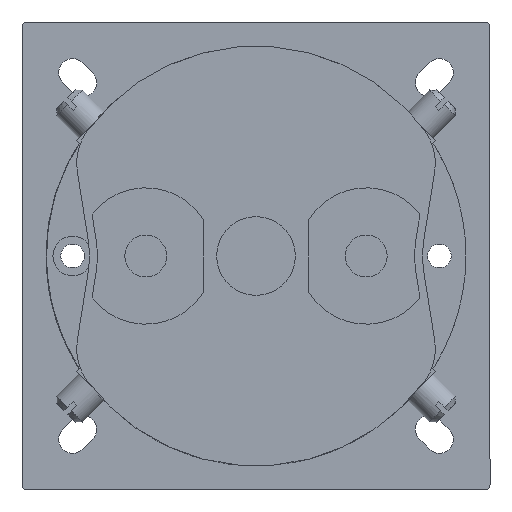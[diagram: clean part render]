
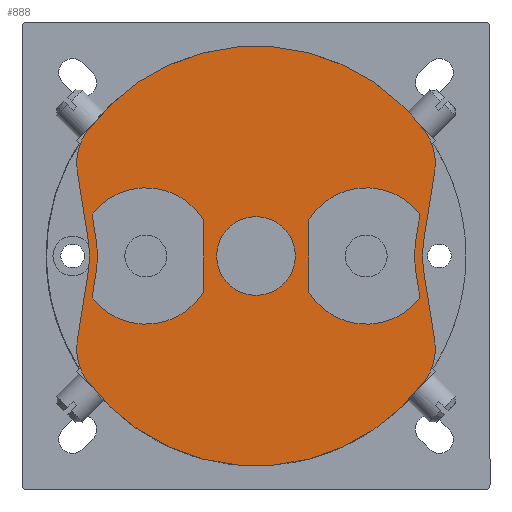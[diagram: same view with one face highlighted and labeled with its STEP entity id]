
A CAD part, front view. The second image highlights one B-rep face of the part: STEP entity #888.
In plain terms, the highlighted planar face has unit normal (0, -1, 0).
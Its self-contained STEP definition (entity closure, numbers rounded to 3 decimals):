
#487=FACE_BOUND('',#2944,.T.);
#488=FACE_BOUND('',#2945,.T.);
#489=FACE_BOUND('',#2946,.T.);
#490=FACE_BOUND('',#2947,.T.);
#888=ADVANCED_FACE('',(#487,#488,#489,#490),#1627,.T.);
#1627=PLANE('',#14373);
#2944=EDGE_LOOP('',(#4843,#4844,#4845,#4846,#4847,#4848));
#2945=EDGE_LOOP('',(#4849,#4850,#4851,#4852,#4853,#4854));
#2946=EDGE_LOOP('',(#4855,#4856,#4857,#4858,#4859,#4860,#4861,#4862,#4863,
#4864,#4865,#4866));
#2947=EDGE_LOOP('',(#4867));
#3836=CIRCLE('',#14199,40.);
#3854=CIRCLE('',#14217,40.);
#3910=CIRCLE('',#14323,7.5);
#3911=CIRCLE('',#14325,13.);
#3913=CIRCLE('',#14329,21.5);
#3915=CIRCLE('',#14333,13.);
#3917=CIRCLE('',#14339,21.5);
#3919=CIRCLE('',#14343,13.);
#3921=CIRCLE('',#14347,13.);
#3924=CIRCLE('',#14352,10.);
#3926=CIRCLE('',#14356,20.);
#3928=CIRCLE('',#14360,10.);
#3930=CIRCLE('',#14363,10.);
#3932=CIRCLE('',#14367,20.);
#3934=CIRCLE('',#14371,10.);
#4843=ORIENTED_EDGE('',*,*,#9746,.T.);
#4844=ORIENTED_EDGE('',*,*,#9762,.T.);
#4845=ORIENTED_EDGE('',*,*,#9759,.T.);
#4846=ORIENTED_EDGE('',*,*,#9756,.T.);
#4847=ORIENTED_EDGE('',*,*,#9753,.T.);
#4848=ORIENTED_EDGE('',*,*,#9750,.T.);
#4849=ORIENTED_EDGE('',*,*,#9744,.F.);
#4850=ORIENTED_EDGE('',*,*,#9728,.F.);
#4851=ORIENTED_EDGE('',*,*,#9732,.F.);
#4852=ORIENTED_EDGE('',*,*,#9735,.F.);
#4853=ORIENTED_EDGE('',*,*,#9738,.F.);
#4854=ORIENTED_EDGE('',*,*,#9741,.F.);
#4855=ORIENTED_EDGE('',*,*,#9791,.T.);
#4856=ORIENTED_EDGE('',*,*,#9789,.T.);
#4857=ORIENTED_EDGE('',*,*,#9786,.T.);
#4858=ORIENTED_EDGE('',*,*,#9783,.T.);
#4859=ORIENTED_EDGE('',*,*,#9780,.T.);
#4860=ORIENTED_EDGE('',*,*,#9597,.T.);
#4861=ORIENTED_EDGE('',*,*,#9777,.T.);
#4862=ORIENTED_EDGE('',*,*,#9775,.T.);
#4863=ORIENTED_EDGE('',*,*,#9772,.T.);
#4864=ORIENTED_EDGE('',*,*,#9769,.T.);
#4865=ORIENTED_EDGE('',*,*,#9766,.T.);
#4866=ORIENTED_EDGE('',*,*,#9563,.T.);
#4867=ORIENTED_EDGE('',*,*,#9727,.F.);
#8210=VERTEX_POINT('',#19640);
#8211=VERTEX_POINT('',#19642);
#8242=VERTEX_POINT('',#19706);
#8243=VERTEX_POINT('',#19708);
#8332=VERTEX_POINT('',#19977);
#8333=VERTEX_POINT('',#19980);
#8334=VERTEX_POINT('',#19981);
#8337=VERTEX_POINT('',#19989);
#8339=VERTEX_POINT('',#19995);
#8341=VERTEX_POINT('',#20001);
#8343=VERTEX_POINT('',#20007);
#8345=VERTEX_POINT('',#20017);
#8346=VERTEX_POINT('',#20018);
#8349=VERTEX_POINT('',#20026);
#8351=VERTEX_POINT('',#20032);
#8353=VERTEX_POINT('',#20038);
#8355=VERTEX_POINT('',#20044);
#8357=VERTEX_POINT('',#20054);
#8359=VERTEX_POINT('',#20060);
#8361=VERTEX_POINT('',#20066);
#8363=VERTEX_POINT('',#20072);
#8365=VERTEX_POINT('',#20081);
#8367=VERTEX_POINT('',#20087);
#8369=VERTEX_POINT('',#20093);
#8371=VERTEX_POINT('',#20099);
#9563=EDGE_CURVE('',#8211,#8210,#3836,.T.);
#9597=EDGE_CURVE('',#8243,#8242,#3854,.T.);
#9727=EDGE_CURVE('',#8332,#8332,#3910,.T.);
#9728=EDGE_CURVE('',#8333,#8334,#3911,.T.);
#9732=EDGE_CURVE('',#8337,#8333,#11512,.T.);
#9735=EDGE_CURVE('',#8339,#8337,#3913,.T.);
#9738=EDGE_CURVE('',#8341,#8339,#11516,.T.);
#9741=EDGE_CURVE('',#8343,#8341,#3915,.T.);
#9744=EDGE_CURVE('',#8334,#8343,#11520,.T.);
#9746=EDGE_CURVE('',#8345,#8346,#11522,.T.);
#9750=EDGE_CURVE('',#8349,#8345,#3917,.T.);
#9753=EDGE_CURVE('',#8351,#8349,#11527,.T.);
#9756=EDGE_CURVE('',#8353,#8351,#3919,.T.);
#9759=EDGE_CURVE('',#8355,#8353,#11531,.T.);
#9762=EDGE_CURVE('',#8346,#8355,#3921,.T.);
#9766=EDGE_CURVE('',#8357,#8211,#3924,.T.);
#9769=EDGE_CURVE('',#8359,#8357,#11537,.T.);
#9772=EDGE_CURVE('',#8361,#8359,#3926,.T.);
#9775=EDGE_CURVE('',#8363,#8361,#11541,.T.);
#9777=EDGE_CURVE('',#8242,#8363,#3928,.T.);
#9780=EDGE_CURVE('',#8365,#8243,#3930,.T.);
#9783=EDGE_CURVE('',#8367,#8365,#11545,.T.);
#9786=EDGE_CURVE('',#8369,#8367,#3932,.T.);
#9789=EDGE_CURVE('',#8371,#8369,#11549,.T.);
#9791=EDGE_CURVE('',#8210,#8371,#3934,.T.);
#11512=LINE('',#19988,#12879);
#11516=LINE('',#20000,#12883);
#11520=LINE('',#20012,#12887);
#11522=LINE('',#20016,#12889);
#11527=LINE('',#20031,#12894);
#11531=LINE('',#20043,#12898);
#11537=LINE('',#20063,#12904);
#11541=LINE('',#20075,#12908);
#11545=LINE('',#20090,#12912);
#11549=LINE('',#20102,#12916);
#12879=VECTOR('',#15997,1.);
#12883=VECTOR('',#16009,1.);
#12887=VECTOR('',#16021,1.);
#12889=VECTOR('',#16027,1.);
#12894=VECTOR('',#16040,1.);
#12898=VECTOR('',#16052,1.);
#12904=VECTOR('',#16074,1.);
#12908=VECTOR('',#16086,1.);
#12912=VECTOR('',#16104,1.);
#12916=VECTOR('',#16116,1.);
#14199=AXIS2_PLACEMENT_3D('',#19641,#15647,#15648);
#14217=AXIS2_PLACEMENT_3D('',#19707,#15699,#15700);
#14323=AXIS2_PLACEMENT_3D('',#19976,#15985,#15986);
#14325=AXIS2_PLACEMENT_3D('',#19979,#15989,#15990);
#14329=AXIS2_PLACEMENT_3D('',#19994,#16002,#16003);
#14333=AXIS2_PLACEMENT_3D('',#20006,#16014,#16015);
#14339=AXIS2_PLACEMENT_3D('',#20025,#16033,#16034);
#14343=AXIS2_PLACEMENT_3D('',#20037,#16045,#16046);
#14347=AXIS2_PLACEMENT_3D('',#20049,#16057,#16058);
#14352=AXIS2_PLACEMENT_3D('',#20057,#16068,#16069);
#14356=AXIS2_PLACEMENT_3D('',#20069,#16080,#16081);
#14360=AXIS2_PLACEMENT_3D('',#20078,#16091,#16092);
#14363=AXIS2_PLACEMENT_3D('',#20084,#16098,#16099);
#14367=AXIS2_PLACEMENT_3D('',#20096,#16110,#16111);
#14371=AXIS2_PLACEMENT_3D('',#20105,#16121,#16122);
#14373=AXIS2_PLACEMENT_3D('',#20107,#16125,#16126);
#15647=DIRECTION('',(0.,-1.,0.));
#15648=DIRECTION('',(0.,0.,-1.));
#15699=DIRECTION('',(0.,-1.,0.));
#15700=DIRECTION('',(0.,0.,-1.));
#15985=DIRECTION('',(0.,-1.,0.));
#15986=DIRECTION('',(0.,0.,-1.));
#15989=DIRECTION('',(0.,-1.,0.));
#15990=DIRECTION('',(1.,0.,0.));
#15997=DIRECTION('',(0.156,0.,0.988));
#16002=DIRECTION('',(0.,1.,0.));
#16003=DIRECTION('',(1.,0.,0.));
#16009=DIRECTION('',(-0.156,0.,0.988));
#16014=DIRECTION('',(0.,-1.,0.));
#16015=DIRECTION('',(1.,0.,0.));
#16021=DIRECTION('',(0.,0.,-1.));
#16027=DIRECTION('',(-0.156,0.,0.988));
#16033=DIRECTION('',(0.,-1.,0.));
#16034=DIRECTION('',(1.,0.,0.));
#16040=DIRECTION('',(0.156,0.,0.988));
#16045=DIRECTION('',(0.,1.,0.));
#16046=DIRECTION('',(1.,0.,0.));
#16052=DIRECTION('',(0.,0.,-1.));
#16057=DIRECTION('',(0.,1.,0.));
#16058=DIRECTION('',(1.,0.,0.));
#16068=DIRECTION('',(0.,-1.,0.));
#16069=DIRECTION('',(0.,0.,-1.));
#16074=DIRECTION('',(0.156,0.,0.988));
#16080=DIRECTION('',(0.,1.,0.));
#16081=DIRECTION('',(0.,0.,-1.));
#16086=DIRECTION('',(-0.156,0.,0.988));
#16091=DIRECTION('',(0.,-1.,0.));
#16092=DIRECTION('',(0.,0.,-1.));
#16098=DIRECTION('',(0.,-1.,0.));
#16099=DIRECTION('',(0.,0.,-1.));
#16104=DIRECTION('',(-0.156,0.,-0.988));
#16110=DIRECTION('',(0.,1.,0.));
#16111=DIRECTION('',(0.,0.,-1.));
#16116=DIRECTION('',(0.156,0.,-0.988));
#16121=DIRECTION('',(0.,-1.,0.));
#16122=DIRECTION('',(0.,0.,-1.));
#16125=DIRECTION('',(0.,-1.,0.));
#16126=DIRECTION('',(0.,0.,-1.));
#19640=CARTESIAN_POINT('',(-32.249,-116.5,23.665));
#19641=CARTESIAN_POINT('',(0.,-116.5,0.));
#19642=CARTESIAN_POINT('',(32.249,-116.5,23.665));
#19706=CARTESIAN_POINT('',(32.249,-116.5,-23.665));
#19707=CARTESIAN_POINT('',(0.,-116.5,0.));
#19708=CARTESIAN_POINT('',(-32.249,-116.5,-23.665));
#19976=CARTESIAN_POINT('',(0.,-116.5,0.));
#19977=CARTESIAN_POINT('',(0.,-116.5,-7.5));
#19979=CARTESIAN_POINT('',(21.031,-116.5,0.));
#19980=CARTESIAN_POINT('',(31.253,-116.5,8.032));
#19981=CARTESIAN_POINT('',(10.031,-116.5,6.928));
#19988=CARTESIAN_POINT('',(30.514,-116.5,3.363));
#19989=CARTESIAN_POINT('',(30.514,-116.5,3.363));
#19994=CARTESIAN_POINT('',(51.749,-116.5,0.));
#19995=CARTESIAN_POINT('',(30.514,-116.5,-3.363));
#20000=CARTESIAN_POINT('',(31.253,-116.5,-8.032));
#20001=CARTESIAN_POINT('',(31.253,-116.5,-8.032));
#20006=CARTESIAN_POINT('',(21.031,-116.5,0.));
#20007=CARTESIAN_POINT('',(10.031,-116.5,-6.928));
#20012=CARTESIAN_POINT('',(10.031,-116.5,6.928));
#20016=CARTESIAN_POINT('',(-30.514,-116.5,3.363));
#20017=CARTESIAN_POINT('',(-30.514,-116.5,3.363));
#20018=CARTESIAN_POINT('',(-31.248,-116.5,7.998));
#20025=CARTESIAN_POINT('',(-51.749,-116.5,0.));
#20026=CARTESIAN_POINT('',(-30.514,-116.5,-3.363));
#20031=CARTESIAN_POINT('',(-31.248,-116.5,-7.998));
#20032=CARTESIAN_POINT('',(-31.248,-116.5,-7.998));
#20037=CARTESIAN_POINT('',(-21.,-116.5,0.));
#20038=CARTESIAN_POINT('',(-10.,-116.5,-6.928));
#20043=CARTESIAN_POINT('',(-10.,-116.5,6.928));
#20044=CARTESIAN_POINT('',(-10.,-116.5,6.928));
#20049=CARTESIAN_POINT('',(-21.,-116.5,0.));
#20054=CARTESIAN_POINT('',(34.063,-116.5,16.184));
#20057=CARTESIAN_POINT('',(24.186,-116.5,17.749));
#20060=CARTESIAN_POINT('',(31.996,-116.5,3.129));
#20063=CARTESIAN_POINT('',(31.996,-116.5,3.129));
#20066=CARTESIAN_POINT('',(31.996,-116.5,-3.129));
#20069=CARTESIAN_POINT('',(51.749,-116.5,0.));
#20072=CARTESIAN_POINT('',(34.063,-116.5,-16.184));
#20075=CARTESIAN_POINT('',(34.063,-116.5,-16.184));
#20078=CARTESIAN_POINT('',(24.186,-116.5,-17.749));
#20081=CARTESIAN_POINT('',(-34.063,-116.5,-16.184));
#20084=CARTESIAN_POINT('',(-24.186,-116.5,-17.749));
#20087=CARTESIAN_POINT('',(-31.996,-116.5,-3.129));
#20090=CARTESIAN_POINT('',(-31.996,-116.5,-3.129));
#20093=CARTESIAN_POINT('',(-31.996,-116.5,3.129));
#20096=CARTESIAN_POINT('',(-51.749,-116.5,0.));
#20099=CARTESIAN_POINT('',(-34.063,-116.5,16.184));
#20102=CARTESIAN_POINT('',(-34.063,-116.5,16.184));
#20105=CARTESIAN_POINT('',(-24.186,-116.5,17.749));
#20107=CARTESIAN_POINT('',(-24.186,-116.5,17.749));
